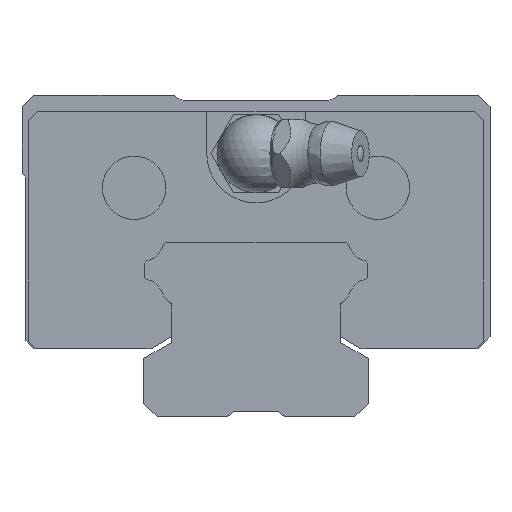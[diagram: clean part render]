
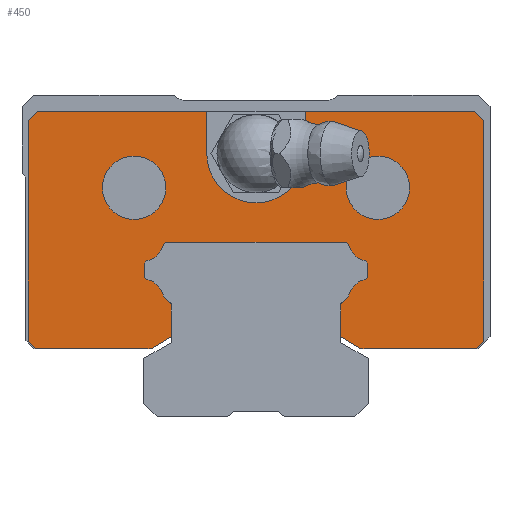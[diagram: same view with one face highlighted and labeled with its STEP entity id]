
A CAD part, front view. The second image highlights one B-rep face of the part: STEP entity #450.
In plain terms, the highlighted planar face has unit normal (0, -1, 0).
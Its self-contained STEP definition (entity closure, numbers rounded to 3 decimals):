
#209=FACE_BOUND('',#914,.T.);
#210=FACE_BOUND('',#915,.T.);
#295=CIRCLE('',#3246,2.2);
#297=CIRCLE('',#3252,2.2);
#299=CIRCLE('',#3258,2.2);
#301=CIRCLE('',#3264,2.2);
#309=CIRCLE('',#3301,3.25);
#310=CIRCLE('',#3302,3.25);
#311=CIRCLE('',#3303,5.05);
#450=ADVANCED_FACE('',(#209,#210,#730),#593,.F.);
#593=PLANE('',#3304);
#730=FACE_OUTER_BOUND('',#916,.T.);
#914=EDGE_LOOP('',(#1530));
#915=EDGE_LOOP('',(#1531));
#916=EDGE_LOOP('',(#1532,#1533,#1534,#1535,#1536,#1537,#1538,#1539,#1540,
#1541,#1542,#1543,#1544,#1545,#1546,#1547,#1548,#1549,#1550,#1551,#1552,
#1553,#1554,#1555,#1556,#1557,#1558,#1559,#1560,#1561,#1562,#1563));
#1530=ORIENTED_EDGE('',*,*,#2419,.F.);
#1531=ORIENTED_EDGE('',*,*,#2420,.F.);
#1532=ORIENTED_EDGE('',*,*,#2421,.F.);
#1533=ORIENTED_EDGE('',*,*,#2422,.T.);
#1534=ORIENTED_EDGE('',*,*,#2415,.F.);
#1535=ORIENTED_EDGE('',*,*,#2412,.T.);
#1536=ORIENTED_EDGE('',*,*,#2410,.F.);
#1537=ORIENTED_EDGE('',*,*,#2408,.T.);
#1538=ORIENTED_EDGE('',*,*,#2386,.F.);
#1539=ORIENTED_EDGE('',*,*,#2380,.T.);
#1540=ORIENTED_EDGE('',*,*,#2377,.F.);
#1541=ORIENTED_EDGE('',*,*,#2374,.F.);
#1542=ORIENTED_EDGE('',*,*,#2371,.T.);
#1543=ORIENTED_EDGE('',*,*,#2368,.F.);
#1544=ORIENTED_EDGE('',*,*,#2365,.F.);
#1545=ORIENTED_EDGE('',*,*,#2362,.T.);
#1546=ORIENTED_EDGE('',*,*,#2359,.T.);
#1547=ORIENTED_EDGE('',*,*,#2356,.T.);
#1548=ORIENTED_EDGE('',*,*,#2353,.T.);
#1549=ORIENTED_EDGE('',*,*,#2350,.F.);
#1550=ORIENTED_EDGE('',*,*,#2347,.T.);
#1551=ORIENTED_EDGE('',*,*,#2344,.F.);
#1552=ORIENTED_EDGE('',*,*,#2341,.T.);
#1553=ORIENTED_EDGE('',*,*,#2338,.T.);
#1554=ORIENTED_EDGE('',*,*,#2335,.T.);
#1555=ORIENTED_EDGE('',*,*,#2332,.T.);
#1556=ORIENTED_EDGE('',*,*,#2329,.T.);
#1557=ORIENTED_EDGE('',*,*,#2326,.F.);
#1558=ORIENTED_EDGE('',*,*,#2322,.T.);
#1559=ORIENTED_EDGE('',*,*,#2407,.F.);
#1560=ORIENTED_EDGE('',*,*,#2405,.T.);
#1561=ORIENTED_EDGE('',*,*,#2403,.F.);
#1562=ORIENTED_EDGE('',*,*,#2414,.F.);
#1563=ORIENTED_EDGE('',*,*,#2423,.F.);
#1978=VERTEX_POINT('',#4656);
#1979=VERTEX_POINT('',#4658);
#1982=VERTEX_POINT('',#4666);
#1984=VERTEX_POINT('',#4672);
#1986=VERTEX_POINT('',#4678);
#1988=VERTEX_POINT('',#4684);
#1990=VERTEX_POINT('',#4690);
#1992=VERTEX_POINT('',#4696);
#1994=VERTEX_POINT('',#4702);
#1996=VERTEX_POINT('',#4708);
#1998=VERTEX_POINT('',#4714);
#2000=VERTEX_POINT('',#4720);
#2002=VERTEX_POINT('',#4726);
#2004=VERTEX_POINT('',#4732);
#2006=VERTEX_POINT('',#4738);
#2008=VERTEX_POINT('',#4744);
#2010=VERTEX_POINT('',#4750);
#2012=VERTEX_POINT('',#4756);
#2014=VERTEX_POINT('',#4762);
#2016=VERTEX_POINT('',#4768);
#2018=VERTEX_POINT('',#4774);
#2021=VERTEX_POINT('',#4784);
#2032=VERTEX_POINT('',#4829);
#2033=VERTEX_POINT('',#4831);
#2034=VERTEX_POINT('',#4835);
#2035=VERTEX_POINT('',#4841);
#2036=VERTEX_POINT('',#4845);
#2037=VERTEX_POINT('',#4849);
#2038=VERTEX_POINT('',#4853);
#2039=VERTEX_POINT('',#4855);
#2042=VERTEX_POINT('',#4863);
#2043=VERTEX_POINT('',#4865);
#2044=VERTEX_POINT('',#4867);
#2045=VERTEX_POINT('',#4868);
#2322=EDGE_CURVE('',#1979,#1978,#2681,.T.);
#2326=EDGE_CURVE('',#1979,#1982,#2685,.T.);
#2329=EDGE_CURVE('',#1984,#1982,#2688,.T.);
#2332=EDGE_CURVE('',#1986,#1984,#2691,.T.);
#2335=EDGE_CURVE('',#1988,#1986,#295,.T.);
#2338=EDGE_CURVE('',#1990,#1988,#2695,.T.);
#2341=EDGE_CURVE('',#1992,#1990,#2698,.T.);
#2344=EDGE_CURVE('',#1992,#1994,#2701,.T.);
#2347=EDGE_CURVE('',#1996,#1994,#297,.T.);
#2350=EDGE_CURVE('',#1996,#1998,#2705,.T.);
#2353=EDGE_CURVE('',#2000,#1998,#2708,.T.);
#2356=EDGE_CURVE('',#2002,#2000,#2711,.T.);
#2359=EDGE_CURVE('',#2004,#2002,#299,.T.);
#2362=EDGE_CURVE('',#2006,#2004,#2715,.T.);
#2365=EDGE_CURVE('',#2006,#2008,#2718,.T.);
#2368=EDGE_CURVE('',#2008,#2010,#2721,.T.);
#2371=EDGE_CURVE('',#2012,#2010,#301,.T.);
#2374=EDGE_CURVE('',#2012,#2014,#2725,.T.);
#2377=EDGE_CURVE('',#2014,#2016,#2728,.T.);
#2380=EDGE_CURVE('',#2018,#2016,#2731,.T.);
#2386=EDGE_CURVE('',#2018,#2021,#2737,.T.);
#2403=EDGE_CURVE('',#2032,#2033,#2748,.T.);
#2405=EDGE_CURVE('',#2034,#2033,#2750,.T.);
#2407=EDGE_CURVE('',#2034,#1978,#2752,.T.);
#2408=EDGE_CURVE('',#2035,#2021,#2753,.T.);
#2410=EDGE_CURVE('',#2035,#2036,#2755,.T.);
#2412=EDGE_CURVE('',#2037,#2036,#2757,.T.);
#2414=EDGE_CURVE('',#2038,#2032,#2759,.T.);
#2415=EDGE_CURVE('',#2037,#2039,#2760,.T.);
#2419=EDGE_CURVE('',#2042,#2042,#309,.T.);
#2420=EDGE_CURVE('',#2043,#2043,#310,.T.);
#2421=EDGE_CURVE('',#2044,#2045,#311,.T.);
#2422=EDGE_CURVE('',#2044,#2039,#2764,.T.);
#2423=EDGE_CURVE('',#2045,#2038,#2765,.T.);
#2681=LINE('',#4657,#2973);
#2685=LINE('',#4665,#2977);
#2688=LINE('',#4671,#2980);
#2691=LINE('',#4677,#2983);
#2695=LINE('',#4689,#2987);
#2698=LINE('',#4695,#2990);
#2701=LINE('',#4701,#2993);
#2705=LINE('',#4713,#2997);
#2708=LINE('',#4719,#3000);
#2711=LINE('',#4725,#3003);
#2715=LINE('',#4737,#3007);
#2718=LINE('',#4743,#3010);
#2721=LINE('',#4749,#3013);
#2725=LINE('',#4761,#3017);
#2728=LINE('',#4767,#3020);
#2731=LINE('',#4773,#3023);
#2737=LINE('',#4783,#3029);
#2748=LINE('',#4830,#3040);
#2750=LINE('',#4834,#3042);
#2752=LINE('',#4838,#3044);
#2753=LINE('',#4840,#3045);
#2755=LINE('',#4844,#3047);
#2757=LINE('',#4848,#3049);
#2759=LINE('',#4852,#3051);
#2760=LINE('',#4854,#3052);
#2764=LINE('',#4869,#3056);
#2765=LINE('',#4870,#3057);
#2973=VECTOR('',#3783,1.);
#2977=VECTOR('',#3789,1.);
#2980=VECTOR('',#3794,1.);
#2983=VECTOR('',#3799,1.);
#2987=VECTOR('',#3811,1.);
#2990=VECTOR('',#3816,1.);
#2993=VECTOR('',#3821,1.);
#2997=VECTOR('',#3833,1.);
#3000=VECTOR('',#3838,1.);
#3003=VECTOR('',#3843,1.);
#3007=VECTOR('',#3855,1.);
#3010=VECTOR('',#3860,1.);
#3013=VECTOR('',#3865,1.);
#3017=VECTOR('',#3877,1.);
#3020=VECTOR('',#3882,1.);
#3023=VECTOR('',#3887,1.);
#3029=VECTOR('',#3895,1.);
#3040=VECTOR('',#3954,1.);
#3042=VECTOR('',#3958,1.);
#3044=VECTOR('',#3962,1.);
#3045=VECTOR('',#3965,1.);
#3047=VECTOR('',#3969,1.);
#3049=VECTOR('',#3973,1.);
#3051=VECTOR('',#3977,1.);
#3052=VECTOR('',#3978,1.);
#3056=VECTOR('',#3990,1.);
#3057=VECTOR('',#3991,1.);
#3246=AXIS2_PLACEMENT_3D('',#4683,#3804,#3805);
#3252=AXIS2_PLACEMENT_3D('',#4707,#3826,#3827);
#3258=AXIS2_PLACEMENT_3D('',#4731,#3848,#3849);
#3264=AXIS2_PLACEMENT_3D('',#4755,#3870,#3871);
#3301=AXIS2_PLACEMENT_3D('',#4862,#3984,#3985);
#3302=AXIS2_PLACEMENT_3D('',#4864,#3986,#3987);
#3303=AXIS2_PLACEMENT_3D('',#4866,#3988,#3989);
#3304=AXIS2_PLACEMENT_3D('',#4871,#3992,#3993);
#3783=DIRECTION('',(1.,0.,0.));
#3789=DIRECTION('',(-0.866,0.,0.5));
#3794=DIRECTION('',(0.,0.,-1.));
#3799=DIRECTION('',(-0.707,0.,-0.707));
#3804=DIRECTION('',(0.,-1.,0.));
#3805=DIRECTION('',(1.,0.,0.));
#3811=DIRECTION('',(-0.707,0.,-0.707));
#3816=DIRECTION('',(0.,0.,-1.));
#3821=DIRECTION('',(-0.707,0.,0.707));
#3826=DIRECTION('',(0.,-1.,0.));
#3827=DIRECTION('',(1.,0.,0.));
#3833=DIRECTION('',(-0.707,0.,0.707));
#3838=DIRECTION('',(1.,0.,0.));
#3843=DIRECTION('',(0.707,0.,0.707));
#3848=DIRECTION('',(0.,-1.,0.));
#3849=DIRECTION('',(1.,0.,0.));
#3855=DIRECTION('',(0.707,0.,0.707));
#3860=DIRECTION('',(0.,0.,-1.));
#3865=DIRECTION('',(0.707,0.,-0.707));
#3870=DIRECTION('',(0.,-1.,0.));
#3871=DIRECTION('',(1.,0.,0.));
#3877=DIRECTION('',(0.707,0.,-0.707));
#3882=DIRECTION('',(0.,0.,-1.));
#3887=DIRECTION('',(0.866,0.,0.5));
#3895=DIRECTION('',(-1.,0.,0.));
#3954=DIRECTION('',(0.707,0.,-0.707));
#3958=DIRECTION('',(0.,0.,1.));
#3962=DIRECTION('',(-0.707,0.,-0.707));
#3965=DIRECTION('',(0.707,0.,-0.707));
#3969=DIRECTION('',(0.,0.,1.));
#3973=DIRECTION('',(-0.707,0.,-0.707));
#3977=DIRECTION('',(1.,0.,0.));
#3978=DIRECTION('',(1.,0.,0.));
#3984=DIRECTION('',(0.,-1.,0.));
#3985=DIRECTION('',(0.,0.,-1.));
#3986=DIRECTION('',(0.,-1.,0.));
#3987=DIRECTION('',(0.,0.,-1.));
#3988=DIRECTION('',(0.,-1.,0.));
#3989=DIRECTION('',(1.,0.,0.));
#3990=DIRECTION('',(0.,0.,1.));
#3991=DIRECTION('',(0.,0.,1.));
#3992=DIRECTION('',(0.,1.,0.));
#3993=DIRECTION('',(0.,0.,-1.));
#4656=CARTESIAN_POINT('',(22.616,-41.,6.4));
#4657=CARTESIAN_POINT('',(10.768,-41.,6.4));
#4658=CARTESIAN_POINT('',(10.768,-41.,6.4));
#4665=CARTESIAN_POINT('',(10.768,-41.,6.4));
#4666=CARTESIAN_POINT('',(8.63,-41.,7.634));
#4671=CARTESIAN_POINT('',(8.63,-41.,10.921));
#4672=CARTESIAN_POINT('',(8.63,-41.,10.921));
#4677=CARTESIAN_POINT('',(9.503,-41.,11.794));
#4678=CARTESIAN_POINT('',(9.503,-41.,11.794));
#4683=CARTESIAN_POINT('',(11.656,-41.,11.344));
#4684=CARTESIAN_POINT('',(11.206,-41.,13.497));
#4689=CARTESIAN_POINT('',(11.43,-41.,13.721));
#4690=CARTESIAN_POINT('',(11.43,-41.,13.721));
#4695=CARTESIAN_POINT('',(11.43,-41.,15.179));
#4696=CARTESIAN_POINT('',(11.43,-41.,15.179));
#4701=CARTESIAN_POINT('',(11.43,-41.,15.179));
#4702=CARTESIAN_POINT('',(11.206,-41.,15.403));
#4707=CARTESIAN_POINT('',(11.656,-41.,17.556));
#4708=CARTESIAN_POINT('',(9.503,-41.,17.106));
#4713=CARTESIAN_POINT('',(9.503,-41.,17.106));
#4714=CARTESIAN_POINT('',(9.279,-41.,17.33));
#4719=CARTESIAN_POINT('',(-9.279,-41.,17.33));
#4720=CARTESIAN_POINT('',(-9.279,-41.,17.33));
#4725=CARTESIAN_POINT('',(-9.503,-41.,17.106));
#4726=CARTESIAN_POINT('',(-9.503,-41.,17.106));
#4731=CARTESIAN_POINT('',(-11.656,-41.,17.556));
#4732=CARTESIAN_POINT('',(-11.206,-41.,15.403));
#4737=CARTESIAN_POINT('',(-11.43,-41.,15.179));
#4738=CARTESIAN_POINT('',(-11.43,-41.,15.179));
#4743=CARTESIAN_POINT('',(-11.43,-41.,15.179));
#4744=CARTESIAN_POINT('',(-11.43,-41.,13.721));
#4749=CARTESIAN_POINT('',(-11.43,-41.,13.721));
#4750=CARTESIAN_POINT('',(-11.206,-41.,13.497));
#4755=CARTESIAN_POINT('',(-11.656,-41.,11.344));
#4756=CARTESIAN_POINT('',(-9.503,-41.,11.794));
#4761=CARTESIAN_POINT('',(-9.503,-41.,11.794));
#4762=CARTESIAN_POINT('',(-8.63,-41.,10.921));
#4767=CARTESIAN_POINT('',(-8.63,-41.,10.921));
#4768=CARTESIAN_POINT('',(-8.63,-41.,7.634));
#4773=CARTESIAN_POINT('',(-10.768,-41.,6.4));
#4774=CARTESIAN_POINT('',(-10.768,-41.,6.4));
#4783=CARTESIAN_POINT('',(-10.768,-41.,6.4));
#4784=CARTESIAN_POINT('',(-22.616,-41.,6.4));
#4829=CARTESIAN_POINT('',(22.42,-41.,30.77));
#4830=CARTESIAN_POINT('',(22.42,-41.,30.77));
#4831=CARTESIAN_POINT('',(23.37,-41.,29.82));
#4834=CARTESIAN_POINT('',(23.37,-41.,7.154));
#4835=CARTESIAN_POINT('',(23.37,-41.,7.154));
#4838=CARTESIAN_POINT('',(23.37,-41.,7.154));
#4840=CARTESIAN_POINT('',(-23.37,-41.,7.154));
#4841=CARTESIAN_POINT('',(-23.37,-41.,7.154));
#4844=CARTESIAN_POINT('',(-23.37,-41.,7.154));
#4845=CARTESIAN_POINT('',(-23.37,-41.,29.82));
#4848=CARTESIAN_POINT('',(-22.42,-41.,30.77));
#4849=CARTESIAN_POINT('',(-22.42,-41.,30.77));
#4852=CARTESIAN_POINT('',(-22.42,-41.,30.77));
#4853=CARTESIAN_POINT('',(5.05,-41.,30.77));
#4854=CARTESIAN_POINT('',(-22.42,-41.,30.77));
#4855=CARTESIAN_POINT('',(-5.05,-41.,30.77));
#4862=CARTESIAN_POINT('',(12.5,-41.,22.9));
#4863=CARTESIAN_POINT('',(12.5,-41.,19.65));
#4864=CARTESIAN_POINT('',(-12.5,-41.,22.9));
#4865=CARTESIAN_POINT('',(-12.5,-41.,19.65));
#4866=CARTESIAN_POINT('',(0.,-41.,26.4));
#4867=CARTESIAN_POINT('',(-5.05,-41.,26.4));
#4868=CARTESIAN_POINT('',(5.05,-41.,26.4));
#4869=CARTESIAN_POINT('',(-5.05,-41.,26.4));
#4870=CARTESIAN_POINT('',(5.05,-41.,26.4));
#4871=CARTESIAN_POINT('',(11.656,-41.,11.344));
